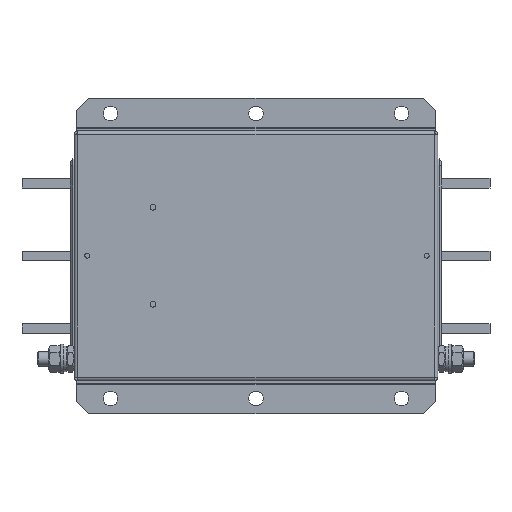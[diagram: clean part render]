
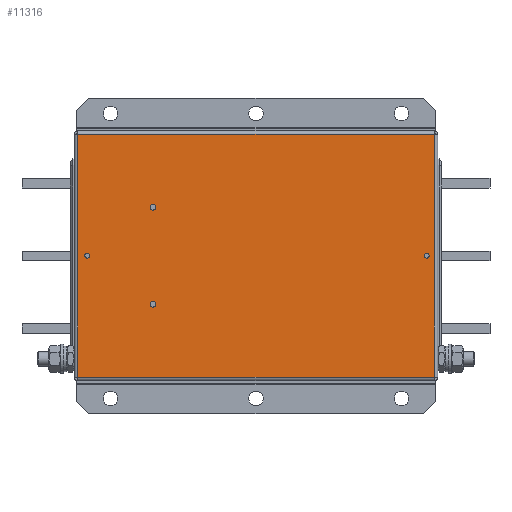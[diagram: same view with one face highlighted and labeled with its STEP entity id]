
A CAD part, top view. The second image highlights one B-rep face of the part: STEP entity #11316.
In plain terms, the highlighted planar face has unit normal (0, 0, 1).
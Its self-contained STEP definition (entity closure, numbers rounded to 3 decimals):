
#266=FACE_BOUND('',#2016,.T.);
#267=FACE_BOUND('',#2017,.T.);
#268=FACE_BOUND('',#2018,.T.);
#269=FACE_BOUND('',#2019,.T.);
#332=CIRCLE('',#11784,2.);
#334=CIRCLE('',#11788,2.);
#515=CIRCLE('',#12095,2.41);
#517=CIRCLE('',#12099,2.41);
#1254=FACE_OUTER_BOUND('',#2015,.T.);
#2015=EDGE_LOOP('',(#8288,#8289,#8290,#8291));
#2016=EDGE_LOOP('',(#8292));
#2017=EDGE_LOOP('',(#8293));
#2018=EDGE_LOOP('',(#8294));
#2019=EDGE_LOOP('',(#8295));
#2876=LINE('',#17750,#3846);
#2906=LINE('',#17947,#3876);
#2923=LINE('',#18103,#3893);
#2933=LINE('',#18131,#3903);
#3846=VECTOR('',#14173,294.4);
#3876=VECTOR('',#14271,200.4);
#3893=VECTOR('',#14314,294.4);
#3903=VECTOR('',#14354,200.4);
#4472=VERTEX_POINT('',#16320);
#4474=VERTEX_POINT('',#16326);
#4895=VERTEX_POINT('',#17401);
#4897=VERTEX_POINT('',#17407);
#4917=VERTEX_POINT('',#17564);
#4934=VERTEX_POINT('',#17722);
#4948=VERTEX_POINT('',#17893);
#4968=VERTEX_POINT('',#18091);
#5528=EDGE_CURVE('',#4472,#4472,#332,.T.);
#5530=EDGE_CURVE('',#4474,#4474,#334,.T.);
#6034=EDGE_CURVE('',#4895,#4895,#515,.T.);
#6036=EDGE_CURVE('',#4897,#4897,#517,.T.);
#6097=EDGE_CURVE('',#4917,#4934,#2876,.T.);
#6142=EDGE_CURVE('',#4948,#4917,#2906,.T.);
#6167=EDGE_CURVE('',#4948,#4968,#2923,.T.);
#6181=EDGE_CURVE('',#4934,#4968,#2933,.T.);
#8288=ORIENTED_EDGE('',*,*,#6167,.T.);
#8289=ORIENTED_EDGE('',*,*,#6181,.F.);
#8290=ORIENTED_EDGE('',*,*,#6097,.F.);
#8291=ORIENTED_EDGE('',*,*,#6142,.F.);
#8292=ORIENTED_EDGE('',*,*,#5528,.T.);
#8293=ORIENTED_EDGE('',*,*,#5530,.T.);
#8294=ORIENTED_EDGE('',*,*,#6034,.T.);
#8295=ORIENTED_EDGE('',*,*,#6036,.T.);
#10202=PLANE('',#12205);
#11316=ADVANCED_FACE('',(#1254,#266,#267,#268,#269),#10202,.T.);
#11784=AXIS2_PLACEMENT_3D('',#16321,#13110,#13111);
#11788=AXIS2_PLACEMENT_3D('',#16327,#13118,#13119);
#12095=AXIS2_PLACEMENT_3D('',#17402,#14043,#14044);
#12099=AXIS2_PLACEMENT_3D('',#17408,#14051,#14052);
#12205=AXIS2_PLACEMENT_3D('',#18130,#14352,#14353);
#13110=DIRECTION('center_axis',(0.,0.,-1.));
#13111=DIRECTION('ref_axis',(-1.,0.,0.));
#13118=DIRECTION('center_axis',(0.,0.,-1.));
#13119=DIRECTION('ref_axis',(-1.,0.,0.));
#14043=DIRECTION('center_axis',(0.,0.,-1.));
#14044=DIRECTION('ref_axis',(1.,0.,0.));
#14051=DIRECTION('center_axis',(0.,0.,-1.));
#14052=DIRECTION('ref_axis',(1.,0.,0.));
#14173=DIRECTION('',(-1.,0.,0.));
#14271=DIRECTION('',(0.,-1.,0.));
#14314=DIRECTION('',(-1.,0.,0.));
#14352=DIRECTION('center_axis',(0.,0.,1.));
#14353=DIRECTION('ref_axis',(1.,0.,0.));
#14354=DIRECTION('',(0.,1.,0.));
#16320=CARTESIAN_POINT('',(-137.2,0.,135.));
#16321=CARTESIAN_POINT('Origin',(-139.2,0.,135.));
#16326=CARTESIAN_POINT('',(142.8,0.,135.));
#16327=CARTESIAN_POINT('Origin',(140.8,0.,135.));
#17401=CARTESIAN_POINT('',(-82.59,40.,135.));
#17402=CARTESIAN_POINT('Origin',(-85.,40.,135.));
#17407=CARTESIAN_POINT('',(-82.59,-40.,135.));
#17408=CARTESIAN_POINT('Origin',(-85.,-40.,135.));
#17564=CARTESIAN_POINT('',(147.2,-100.2,135.));
#17722=CARTESIAN_POINT('',(-147.2,-100.2,135.));
#17750=CARTESIAN_POINT('',(147.2,-100.2,135.));
#17893=CARTESIAN_POINT('',(147.2,100.2,135.));
#17947=CARTESIAN_POINT('',(147.2,100.2,135.));
#18091=CARTESIAN_POINT('',(-147.2,100.2,135.));
#18103=CARTESIAN_POINT('',(147.2,100.2,135.));
#18130=CARTESIAN_POINT('Origin',(0.,0.,135.));
#18131=CARTESIAN_POINT('',(-147.2,-100.2,135.));
